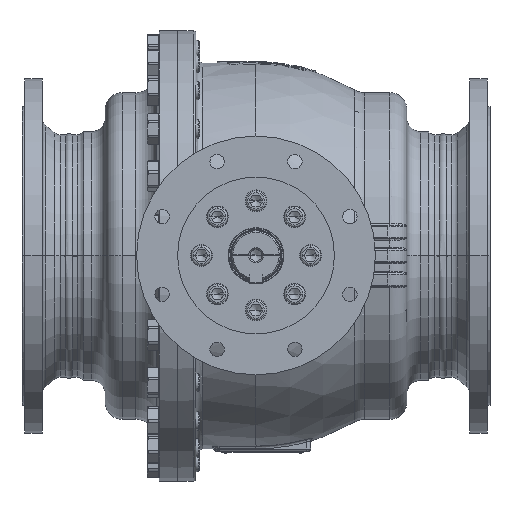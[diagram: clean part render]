
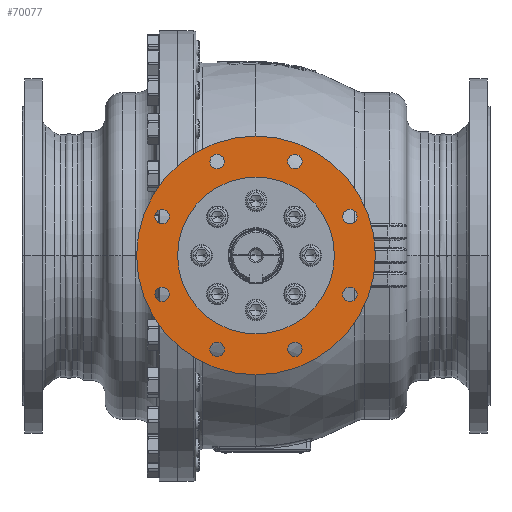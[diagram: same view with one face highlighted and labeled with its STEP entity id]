
A CAD part, top view. The second image highlights one B-rep face of the part: STEP entity #70077.
In plain terms, the highlighted planar face has unit normal (0, 0, 1).
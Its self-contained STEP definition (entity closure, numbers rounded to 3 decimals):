
#3272=CARTESIAN_POINT('',(0.,0.,440.));
#3273=DIRECTION('',(0.,0.,1.));
#3274=DIRECTION('',(1.,0.,0.));
#3275=AXIS2_PLACEMENT_3D('',#3272,#3273,#3274);
#3277=CARTESIAN_POINT('',(0.,0.,440.));
#3278=DIRECTION('',(0.,0.,-1.));
#3279=DIRECTION('',(1.,0.,0.));
#3280=AXIS2_PLACEMENT_3D('',#3277,#3278,#3279);
#3282=CARTESIAN_POINT('',(-57.02,137.658,440.));
#3283=DIRECTION('',(0.,0.,-1.));
#3284=DIRECTION('',(-1.,0.,0.));
#3285=AXIS2_PLACEMENT_3D('',#3282,#3283,#3284);
#3287=CARTESIAN_POINT('',(-57.02,137.658,440.));
#3288=DIRECTION('',(0.,0.,-1.));
#3289=DIRECTION('',(1.,0.,0.));
#3290=AXIS2_PLACEMENT_3D('',#3287,#3288,#3289);
#3292=CARTESIAN_POINT('',(57.02,137.658,440.));
#3293=DIRECTION('',(0.,0.,-1.));
#3294=DIRECTION('',(-0.707,0.707,0.));
#3295=AXIS2_PLACEMENT_3D('',#3292,#3293,#3294);
#3297=CARTESIAN_POINT('',(57.02,137.658,440.));
#3298=DIRECTION('',(0.,0.,-1.));
#3299=DIRECTION('',(0.707,-0.707,0.));
#3300=AXIS2_PLACEMENT_3D('',#3297,#3298,#3299);
#3302=CARTESIAN_POINT('',(137.658,57.02,440.));
#3303=DIRECTION('',(0.,0.,-1.));
#3304=DIRECTION('',(0.,1.,0.));
#3305=AXIS2_PLACEMENT_3D('',#3302,#3303,#3304);
#3307=CARTESIAN_POINT('',(137.658,57.02,440.));
#3308=DIRECTION('',(0.,0.,-1.));
#3309=DIRECTION('',(0.,-1.,0.));
#3310=AXIS2_PLACEMENT_3D('',#3307,#3308,#3309);
#3312=CARTESIAN_POINT('',(137.658,-57.02,440.));
#3313=DIRECTION('',(0.,0.,-1.));
#3314=DIRECTION('',(0.707,0.707,0.));
#3315=AXIS2_PLACEMENT_3D('',#3312,#3313,#3314);
#3317=CARTESIAN_POINT('',(137.658,-57.02,440.));
#3318=DIRECTION('',(0.,0.,-1.));
#3319=DIRECTION('',(-0.707,-0.707,0.));
#3320=AXIS2_PLACEMENT_3D('',#3317,#3318,#3319);
#3322=CARTESIAN_POINT('',(57.02,-137.658,440.));
#3323=DIRECTION('',(0.,0.,-1.));
#3324=DIRECTION('',(1.,0.,0.));
#3325=AXIS2_PLACEMENT_3D('',#3322,#3323,#3324);
#3327=CARTESIAN_POINT('',(57.02,-137.658,440.));
#3328=DIRECTION('',(0.,0.,-1.));
#3329=DIRECTION('',(-1.,0.,0.));
#3330=AXIS2_PLACEMENT_3D('',#3327,#3328,#3329);
#3332=CARTESIAN_POINT('',(-57.02,-137.658,440.));
#3333=DIRECTION('',(0.,0.,-1.));
#3334=DIRECTION('',(0.707,-0.707,0.));
#3335=AXIS2_PLACEMENT_3D('',#3332,#3333,#3334);
#3337=CARTESIAN_POINT('',(-57.02,-137.658,440.));
#3338=DIRECTION('',(0.,0.,-1.));
#3339=DIRECTION('',(-0.707,0.707,0.));
#3340=AXIS2_PLACEMENT_3D('',#3337,#3338,#3339);
#3342=CARTESIAN_POINT('',(-137.658,-57.02,440.));
#3343=DIRECTION('',(0.,0.,-1.));
#3344=DIRECTION('',(0.,-1.,0.));
#3345=AXIS2_PLACEMENT_3D('',#3342,#3343,#3344);
#3347=CARTESIAN_POINT('',(-137.658,-57.02,440.));
#3348=DIRECTION('',(0.,0.,-1.));
#3349=DIRECTION('',(0.,1.,0.));
#3350=AXIS2_PLACEMENT_3D('',#3347,#3348,#3349);
#3352=CARTESIAN_POINT('',(-137.658,57.02,440.));
#3353=DIRECTION('',(0.,0.,-1.));
#3354=DIRECTION('',(-0.707,-0.707,0.));
#3355=AXIS2_PLACEMENT_3D('',#3352,#3353,#3354);
#3357=CARTESIAN_POINT('',(-137.658,57.02,440.));
#3358=DIRECTION('',(0.,0.,-1.));
#3359=DIRECTION('',(0.707,0.707,0.));
#3360=AXIS2_PLACEMENT_3D('',#3357,#3358,#3359);
#3366=CARTESIAN_POINT('',(0.,0.,440.));
#3367=DIRECTION('',(0.,0.,-1.));
#3368=DIRECTION('',(1.,0.,0.));
#3369=AXIS2_PLACEMENT_3D('',#3366,#3367,#3368);
#3375=CARTESIAN_POINT('',(0.,0.,440.));
#3376=DIRECTION('',(0.,0.,1.));
#3377=DIRECTION('',(1.,0.,0.));
#3378=AXIS2_PLACEMENT_3D('',#3375,#3376,#3377);
#65627=CARTESIAN_POINT('',(115.,0.,440.));
#65629=VERTEX_POINT('',#65627);
#65631=CARTESIAN_POINT('',(-115.,0.,440.));
#65633=VERTEX_POINT('',#65631);
#65704=CARTESIAN_POINT('',(175.,0.,440.));
#65706=VERTEX_POINT('',#65704);
#65708=CARTESIAN_POINT('',(-175.,0.,440.));
#65710=VERTEX_POINT('',#65708);
#65783=CARTESIAN_POINT('',(-67.52,137.658,440.));
#65784=CARTESIAN_POINT('',(-46.52,137.658,440.));
#65785=VERTEX_POINT('',#65783);
#65786=VERTEX_POINT('',#65784);
#65791=CARTESIAN_POINT('',(49.595,145.083,440.));
#65792=CARTESIAN_POINT('',(64.444,130.233,440.));
#65793=VERTEX_POINT('',#65791);
#65794=VERTEX_POINT('',#65792);
#65799=CARTESIAN_POINT('',(137.658,67.52,440.));
#65800=CARTESIAN_POINT('',(137.658,46.52,440.));
#65801=VERTEX_POINT('',#65799);
#65802=VERTEX_POINT('',#65800);
#65807=CARTESIAN_POINT('',(145.083,-49.595,440.));
#65808=CARTESIAN_POINT('',(130.233,-64.444,440.));
#65809=VERTEX_POINT('',#65807);
#65810=VERTEX_POINT('',#65808);
#65815=CARTESIAN_POINT('',(67.52,-137.658,440.));
#65816=CARTESIAN_POINT('',(46.52,-137.658,440.));
#65817=VERTEX_POINT('',#65815);
#65818=VERTEX_POINT('',#65816);
#65823=CARTESIAN_POINT('',(-49.595,-145.083,440.));
#65824=CARTESIAN_POINT('',(-64.444,-130.233,440.));
#65825=VERTEX_POINT('',#65823);
#65826=VERTEX_POINT('',#65824);
#65831=CARTESIAN_POINT('',(-137.658,-67.52,440.));
#65832=CARTESIAN_POINT('',(-137.658,-46.52,440.));
#65833=VERTEX_POINT('',#65831);
#65834=VERTEX_POINT('',#65832);
#65839=CARTESIAN_POINT('',(-145.083,49.595,440.));
#65840=CARTESIAN_POINT('',(-130.233,64.444,440.));
#65841=VERTEX_POINT('',#65839);
#65842=VERTEX_POINT('',#65840);
#70014=CARTESIAN_POINT('',(0.,0.,440.));
#70015=DIRECTION('',(0.,0.,1.));
#70016=DIRECTION('',(1.,0.,0.));
#70017=AXIS2_PLACEMENT_3D('',#70014,#70015,#70016);
#70018=PLANE('',#70017);
#70019=ORIENTED_EDGE('',*,*,#70007,.F.);
#70020=ORIENTED_EDGE('',*,*,#69996,.T.);
#70021=EDGE_LOOP('',(#70019,#70020));
#70022=FACE_OUTER_BOUND('',#70021,.F.);
#70024=ORIENTED_EDGE('',*,*,#70023,.F.);
#70026=ORIENTED_EDGE('',*,*,#70025,.T.);
#70027=EDGE_LOOP('',(#70024,#70026));
#70028=FACE_BOUND('',#70027,.F.);
#70030=ORIENTED_EDGE('',*,*,#70029,.F.);
#70032=ORIENTED_EDGE('',*,*,#70031,.F.);
#70033=EDGE_LOOP('',(#70030,#70032));
#70034=FACE_BOUND('',#70033,.F.);
#70036=ORIENTED_EDGE('',*,*,#70035,.F.);
#70038=ORIENTED_EDGE('',*,*,#70037,.F.);
#70039=EDGE_LOOP('',(#70036,#70038));
#70040=FACE_BOUND('',#70039,.F.);
#70042=ORIENTED_EDGE('',*,*,#70041,.F.);
#70044=ORIENTED_EDGE('',*,*,#70043,.F.);
#70045=EDGE_LOOP('',(#70042,#70044));
#70046=FACE_BOUND('',#70045,.F.);
#70048=ORIENTED_EDGE('',*,*,#70047,.F.);
#70050=ORIENTED_EDGE('',*,*,#70049,.F.);
#70051=EDGE_LOOP('',(#70048,#70050));
#70052=FACE_BOUND('',#70051,.F.);
#70054=ORIENTED_EDGE('',*,*,#70053,.F.);
#70056=ORIENTED_EDGE('',*,*,#70055,.F.);
#70057=EDGE_LOOP('',(#70054,#70056));
#70058=FACE_BOUND('',#70057,.F.);
#70060=ORIENTED_EDGE('',*,*,#70059,.F.);
#70062=ORIENTED_EDGE('',*,*,#70061,.F.);
#70063=EDGE_LOOP('',(#70060,#70062));
#70064=FACE_BOUND('',#70063,.F.);
#70066=ORIENTED_EDGE('',*,*,#70065,.F.);
#70068=ORIENTED_EDGE('',*,*,#70067,.F.);
#70069=EDGE_LOOP('',(#70066,#70068));
#70070=FACE_BOUND('',#70069,.F.);
#70072=ORIENTED_EDGE('',*,*,#70071,.F.);
#70074=ORIENTED_EDGE('',*,*,#70073,.F.);
#70075=EDGE_LOOP('',(#70072,#70074));
#70076=FACE_BOUND('',#70075,.F.);
#70077=ADVANCED_FACE('',(#70022,#70028,#70034,#70040,#70046,#70052,#70058,
#70064,#70070,#70076),#70018,.T.);
#3276=CIRCLE('',#3275,175.);
#3281=CIRCLE('',#3280,175.);
#3286=CIRCLE('',#3285,10.5);
#3291=CIRCLE('',#3290,10.5);
#3296=CIRCLE('',#3295,10.5);
#3301=CIRCLE('',#3300,10.5);
#3306=CIRCLE('',#3305,10.5);
#3311=CIRCLE('',#3310,10.5);
#3316=CIRCLE('',#3315,10.5);
#3321=CIRCLE('',#3320,10.5);
#3326=CIRCLE('',#3325,10.5);
#3331=CIRCLE('',#3330,10.5);
#3336=CIRCLE('',#3335,10.5);
#3341=CIRCLE('',#3340,10.5);
#3346=CIRCLE('',#3345,10.5);
#3351=CIRCLE('',#3350,10.5);
#3356=CIRCLE('',#3355,10.5);
#3361=CIRCLE('',#3360,10.5);
#3370=CIRCLE('',#3369,115.);
#3379=CIRCLE('',#3378,115.);
#69996=EDGE_CURVE('',#65706,#65710,#3281,.T.);
#70007=EDGE_CURVE('',#65706,#65710,#3276,.T.);
#70023=EDGE_CURVE('',#65629,#65633,#3370,.T.);
#70025=EDGE_CURVE('',#65629,#65633,#3379,.T.);
#70029=EDGE_CURVE('',#65785,#65786,#3286,.T.);
#70031=EDGE_CURVE('',#65786,#65785,#3291,.T.);
#70035=EDGE_CURVE('',#65793,#65794,#3296,.T.);
#70037=EDGE_CURVE('',#65794,#65793,#3301,.T.);
#70041=EDGE_CURVE('',#65801,#65802,#3306,.T.);
#70043=EDGE_CURVE('',#65802,#65801,#3311,.T.);
#70047=EDGE_CURVE('',#65809,#65810,#3316,.T.);
#70049=EDGE_CURVE('',#65810,#65809,#3321,.T.);
#70053=EDGE_CURVE('',#65817,#65818,#3326,.T.);
#70055=EDGE_CURVE('',#65818,#65817,#3331,.T.);
#70059=EDGE_CURVE('',#65825,#65826,#3336,.T.);
#70061=EDGE_CURVE('',#65826,#65825,#3341,.T.);
#70065=EDGE_CURVE('',#65833,#65834,#3346,.T.);
#70067=EDGE_CURVE('',#65834,#65833,#3351,.T.);
#70071=EDGE_CURVE('',#65841,#65842,#3356,.T.);
#70073=EDGE_CURVE('',#65842,#65841,#3361,.T.);
